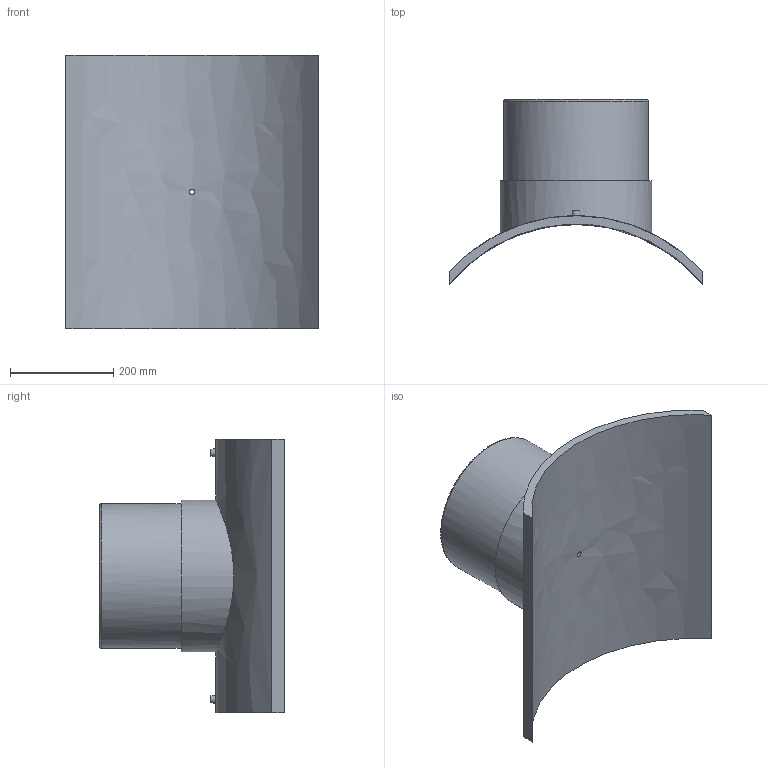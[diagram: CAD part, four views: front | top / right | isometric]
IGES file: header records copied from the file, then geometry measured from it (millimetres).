
Global section: file name: 495803630280T; native system: Autodesk Inventor 2019; preprocessor: unknown; author: KIM; date: 20240404.115414; units: millimetre
Bounding box: 489 x 357.39 x 530 mm (x, y, z)
Volume: 10510016.3 mm3; surface area: 1022014.9 mm2
Topology: 1 solids, 1 shells, 29 faces, 60 edges, 43 vertices
Faces by surface type: bspline 29
